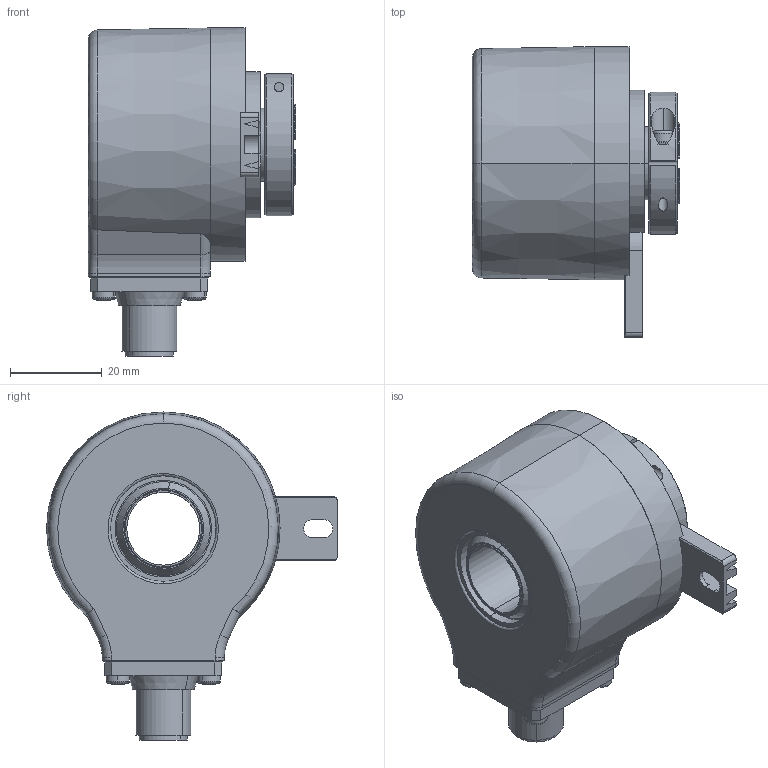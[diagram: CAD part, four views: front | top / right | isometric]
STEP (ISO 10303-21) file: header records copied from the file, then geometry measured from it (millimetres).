
FILE_DESCRIPTION (( 'STEP AP214' ), '1' );
FILE_NAME ('5020.27X2.STEP', '2008-01-31T09:32:16', ( 'admin' ), ( 'Fritz Kübler GmbH' ), 'SwSTEP 2.0', 'SolidWorks 2007', '' );
FILE_SCHEMA (( 'AUTOMOTIVE_DESIGN' ));
Length unit declared in the file: millimetre
Products named in the file (1): 5020.27X2
Bounding box: 45.1 x 63.3 x 71.4 mm (x, y, z)
Surface area: 17756.2 mm2 (no closed solid volume)
Topology: 0 solids, 23 shells, 313 faces, 913 edges, 605 vertices
Faces by surface type: plane 131, cylinder 98, cone 36, sphere 24, torus 20, bspline 4
Entity records: 13958 total; most frequent: CARTESIAN_POINT 2309, DIRECTION 1816, ORIENTED_EDGE 1560, EDGE_CURVE 881, AXIS2_PLACEMENT_3D 700, VERTEX_POINT 589, VECTOR 416, LINE 416
